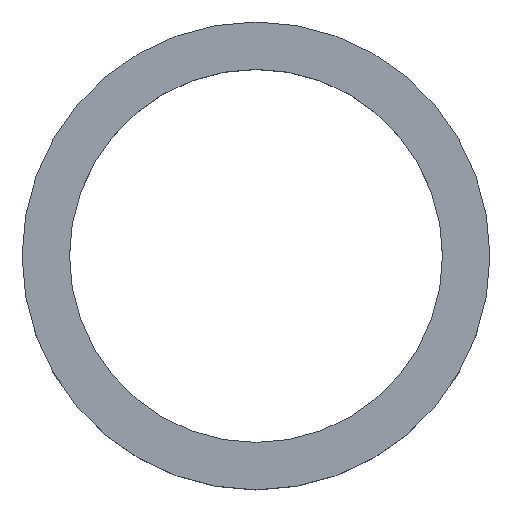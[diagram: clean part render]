
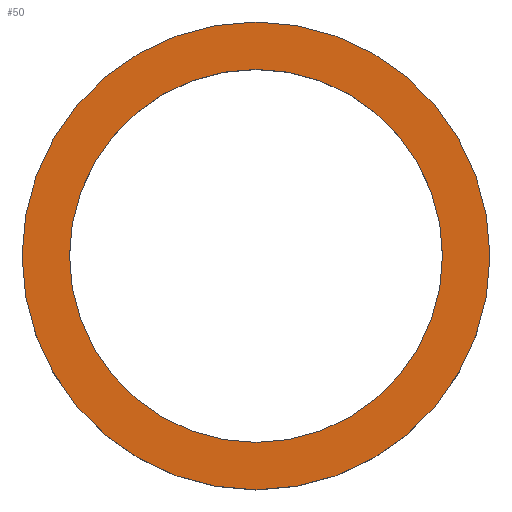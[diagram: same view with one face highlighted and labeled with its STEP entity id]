
A CAD part, top view. The second image highlights one B-rep face of the part: STEP entity #50.
In plain terms, the highlighted planar face has unit normal (0, 0, 1).
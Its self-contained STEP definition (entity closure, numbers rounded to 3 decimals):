
#21 = EDGE_CURVE('',#22,#22,#24,.T.);
#22 = VERTEX_POINT('',#23);
#23 = CARTESIAN_POINT('',(15.05,0.,122.638));
#24 = CIRCLE('',#25,15.05);
#25 = AXIS2_PLACEMENT_3D('',#26,#27,#28);
#26 = CARTESIAN_POINT('',(0.,0.,122.638));
#27 = DIRECTION('',(0.,0.,1.));
#28 = DIRECTION('',(1.,0.,0.));
#50 = ADVANCED_FACE('',(#51,#54),#65,.T.);
#51 = FACE_BOUND('',#52,.T.);
#52 = EDGE_LOOP('',(#53));
#53 = ORIENTED_EDGE('',*,*,#21,.T.);
#54 = FACE_BOUND('',#55,.T.);
#55 = EDGE_LOOP('',(#56));
#56 = ORIENTED_EDGE('',*,*,#57,.F.);
#57 = EDGE_CURVE('',#58,#58,#60,.T.);
#58 = VERTEX_POINT('',#59);
#59 = CARTESIAN_POINT('',(12.,0.,122.638));
#60 = CIRCLE('',#61,12.);
#61 = AXIS2_PLACEMENT_3D('',#62,#63,#64);
#62 = CARTESIAN_POINT('',(0.,0.,122.638));
#63 = DIRECTION('',(0.,0.,1.));
#64 = DIRECTION('',(1.,0.,0.));
#65 = PLANE('',#66);
#66 = AXIS2_PLACEMENT_3D('',#67,#68,#69);
#67 = CARTESIAN_POINT('',(0.,0.,122.638));
#68 = DIRECTION('',(0.,0.,1.));
#69 = DIRECTION('',(1.,0.,0.));
